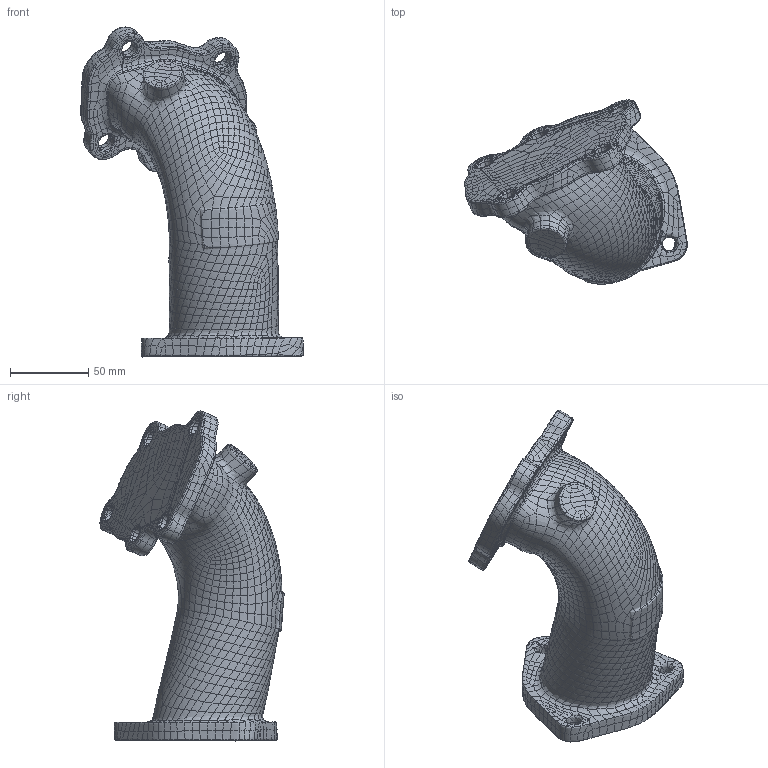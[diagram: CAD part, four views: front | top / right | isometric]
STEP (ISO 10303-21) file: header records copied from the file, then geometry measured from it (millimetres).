
FILE_DESCRIPTION((''),'2;1');
FILE_NAME('__GRANITE__0','2020-02-07T',(''),(''),'PRO/ENGINEER BY PARAMETRIC TECHNOLOGY CORPORATION, 2012230','PRO/ENGINEER BY PARAMETRIC TECHNOLOGY CORPORATION, 2012230','');
FILE_SCHEMA(('CONFIG_CONTROL_DESIGN'));
Products named in the file (1): __GRANITE__0
Bounding box: 141.97 x 117.49 x 210.46 mm (x, y, z)
Volume: 822014.8 mm3; surface area: 70932.3 mm2
Topology: 1 solids, 1 shells, 3689 faces, 7378 edges, 3675 vertices
Faces by surface type: bspline 3530, plane 159
Entity records: 893652 total; most frequent: CARTESIAN_POINT 845183, ORIENTED_EDGE 14756, B_SPLINE_CURVE_WITH_KNOTS 7378, EDGE_CURVE 7378, EDGE_LOOP 3689, FACE_OUTER_BOUND 3689, ADVANCED_FACE 3689, VERTEX_POINT 3675
